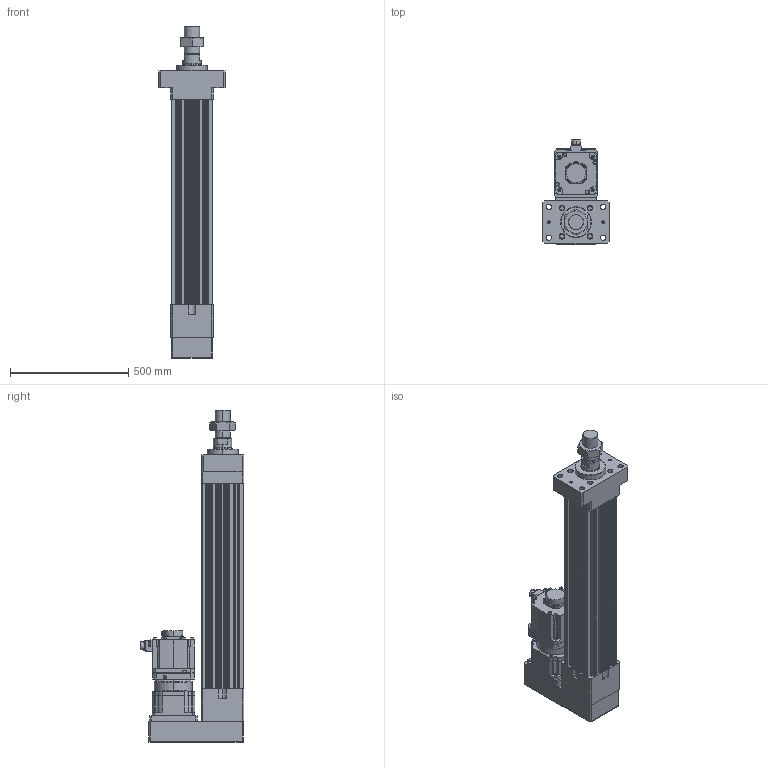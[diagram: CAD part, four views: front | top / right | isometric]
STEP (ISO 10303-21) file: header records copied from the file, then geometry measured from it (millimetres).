
FILE_DESCRIPTION (( 'STEP AP203' ), '1' );
FILE_NAME ('HES180HS-P550-W050G00-M-FMA.STEP', '2023-02-01T08:20:24', ( 'tms' ), ( '' ), 'SwSTEP 2.0', 'SolidWorks 2013', '' );
FILE_SCHEMA (( 'CONFIG_CONTROL_DESIGN' ));
Length unit declared in the file: millimetre
Products named in the file (9): HES180-P550-G180-FMA; HG-SR502; AB180-003[HG-SR702B]; HES180 ROD M ST550; AB1801; M64X2.0P; HES180HS-P550-W050G00-M-FMA; P1301600001; P0403600401
Assembly tree (8 placements, depth 3):
  HES180HS-P550-W050G00-M-FMA
    HES180-P550-G180-FMA
    HES180 ROD M ST550
    M64X2.0P
    AB180-003[HG-SR702B]
      AB1801
      P1301600001
      P0403600401
    HG-SR502
Bounding box: 280 x 438.85 x 1402 mm (x, y, z)
Volume: 31200138.7 mm3; surface area: 2706700.2 mm2
Topology: 4 solids, 19 shells, 1431 faces, 3715 edges, 2410 vertices
Faces by surface type: cylinder 663, plane 555, cone 146, bspline 63, torus 4
Entity records: 52578 total; most frequent: CARTESIAN_POINT 15982, DIRECTION 7693, ORIENTED_EDGE 7330, EDGE_CURVE 3689, AXIS2_PLACEMENT_3D 2901, VERTEX_POINT 2410, VECTOR 1891, LINE 1891
